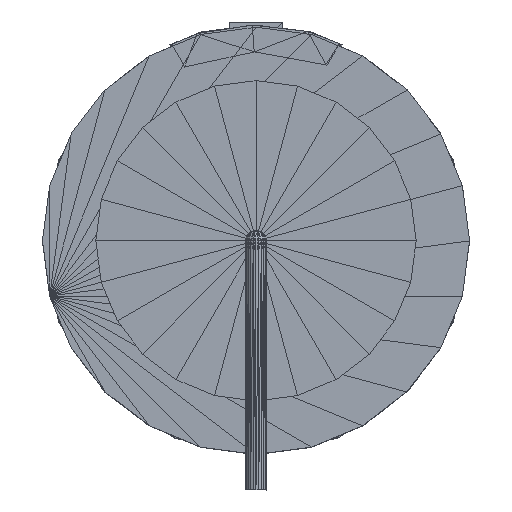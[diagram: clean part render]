
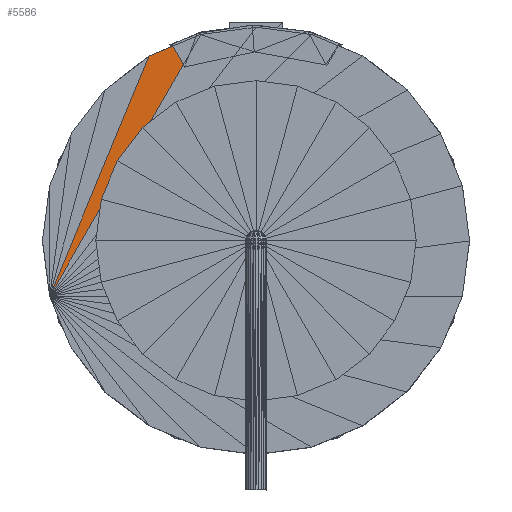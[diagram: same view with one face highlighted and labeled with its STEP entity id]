
A CAD part, left-side view. The second image highlights one B-rep face of the part: STEP entity #5586.
In plain terms, the highlighted planar face has unit normal (-1, 0, 0).
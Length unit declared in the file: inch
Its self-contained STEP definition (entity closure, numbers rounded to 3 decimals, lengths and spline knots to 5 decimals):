
#5171=CARTESIAN_POINT('',(-1.81599,0.72433,0.55602));
#5172=VERTEX_POINT('',#5171);
#5547=CARTESIAN_POINT('',(-1.81578,0.1938,1.47448));
#5548=VERTEX_POINT('',#5547);
#5555=CARTESIAN_POINT('',(-1.81599,0.72433,0.55602));
#5556=DIRECTION('',(0.,-0.5,0.866));
#5557=VECTOR('',#5556,1.06068);
#5558=LINE('',#5555,#5557);
#5559=EDGE_CURVE('',#5172,#5548,#5558,.T.);
#5564=CARTESIAN_POINT('',(-1.81599,0.72433,0.55602));
#5565=DIRECTION('',(-1.,0.,0.));
#5566=DIRECTION('',(0.,-0.472,0.881));
#5567=AXIS2_PLACEMENT_3D('',#5564,#5565,#5566);
#5568=PLANE('',#5567);
#5569=ORIENTED_EDGE('',*,*,#5559,.T.);
#5570=CARTESIAN_POINT('',(-1.81581,0.37472,1.39958));
#5571=VERTEX_POINT('',#5570);
#5572=CARTESIAN_POINT('',(-1.81581,0.37472,1.39958));
#5573=DIRECTION('',(0.,-0.924,0.383));
#5574=VECTOR('',#5573,0.19581);
#5575=LINE('',#5572,#5574);
#5576=EDGE_CURVE('',#5571,#5548,#5575,.T.);
#5577=ORIENTED_EDGE('',*,*,#5576,.F.);
#5578=CARTESIAN_POINT('',(-1.81599,0.72433,0.55602));
#5579=DIRECTION('',(0.,-0.383,0.924));
#5580=VECTOR('',#5579,0.91314);
#5581=LINE('',#5578,#5580);
#5582=EDGE_CURVE('',#5172,#5571,#5581,.T.);
#5583=ORIENTED_EDGE('',*,*,#5582,.F.);
#5584=EDGE_LOOP('',(#5569,#5577,#5583));
#5585=FACE_BOUND('',#5584,.T.);
#5586=ADVANCED_FACE('',(#5585),#5568,.T.);
